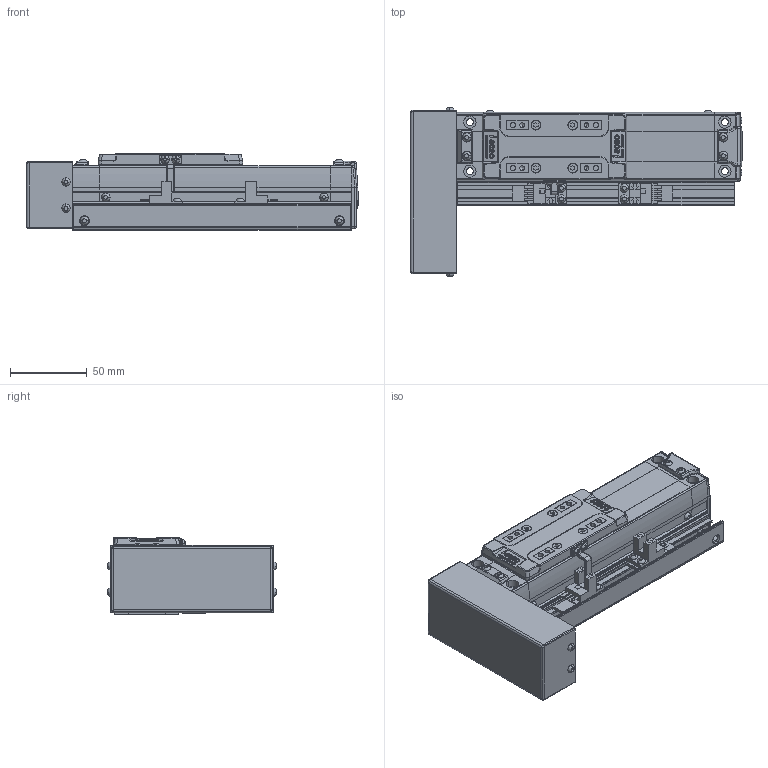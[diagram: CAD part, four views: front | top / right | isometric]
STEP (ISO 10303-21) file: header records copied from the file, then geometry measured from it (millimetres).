
FILE_DESCRIPTION(('STEP AP214'),'1');
FILE_NAME('Z:/Web/3D/SAN45/2013.ver/STP/SAN45-50PR+3SR.stp','2013-05-14T23:39:58',(' '),(' '),'Spatial InterOp 3D',' ',' ');
FILE_SCHEMA(('automotive_design'));
Length unit declared in the file: millimetre
Products named in the file (42): BTCV-SAN45; BHCS M3 X 6L; BODY-SAN45; REAR-SAN45; RRCV-SAN45; BHCS M3 x 6L; FRONT-SAN45; SHAFT; RN8 x 0.75; SSFX-SAN45; SLIDE-SAN45; SLCV-IM45; FHCS M3 x 6L; SRL-16x17-380L; EE-SX674; SBK-SX674-352; SDG-SA45; SCREW M3 x 5L
Bounding box: 216.15 x 110.13 x 50 mm (x, y, z)
Volume: 497572.7 mm3; surface area: 125784 mm2
Topology: 42 solids, 42 shells, 2194 faces, 5673 edges, 3644 vertices
Faces by surface type: plane 1199, cylinder 701, cone 132, sphere 80, bspline 44, torus 32, extrusion 6
Entity records: 89205 total; most frequent: CARTESIAN_POINT 16135, DIRECTION 11822, ORIENTED_EDGE 11226, EDGE_CURVE 5613, AXIS2_PLACEMENT_3D 4144, VERTEX_POINT 3644, VECTOR 3534, LINE 3528
